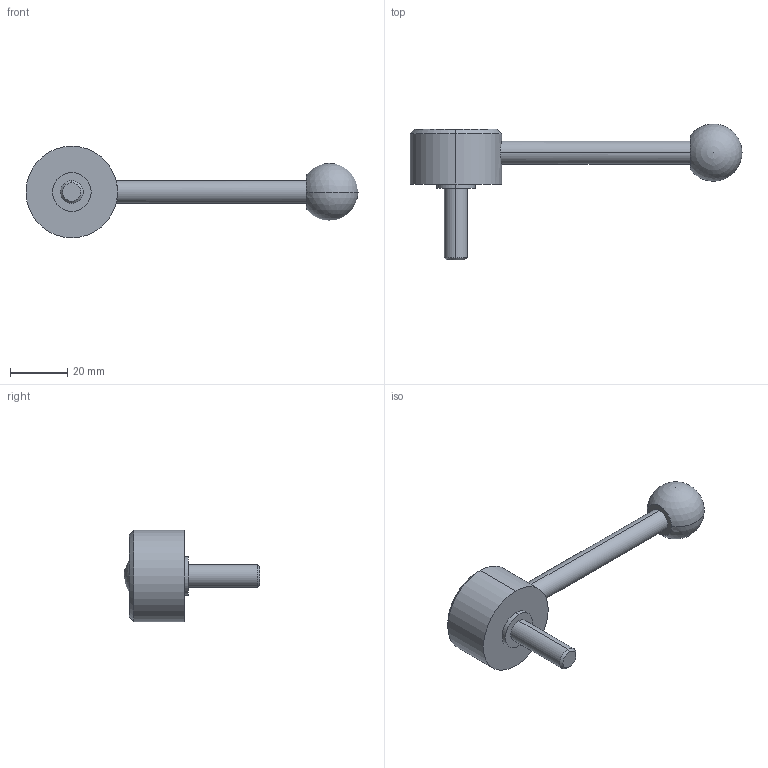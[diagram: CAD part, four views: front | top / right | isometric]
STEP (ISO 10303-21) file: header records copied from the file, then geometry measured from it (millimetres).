
FILE_DESCRIPTION (( 'STEP AP214' ), '1' );
FILE_NAME ('125.5-32-M8-25-D.step', '2020-02-18T11:25:47', ( '' ), ( '' ), 'SwSTEP 2.0', 'SolidWorks 2019', '' );
FILE_SCHEMA (( 'AUTOMOTIVE_DESIGN' ));
Length unit declared in the file: millimetre
Products named in the file (1): 125.5-32-M8-25-D
Bounding box: 116 x 47.47 x 32 mm (x, y, z)
Volume: 24106.8 mm3; surface area: 6925.7 mm2
Topology: 1 solids, 1 shells, 22 faces, 47 edges, 30 vertices
Faces by surface type: cylinder 10, plane 6, cone 4, sphere 2
Entity records: 730 total; most frequent: CARTESIAN_POINT 158, DIRECTION 112, ORIENTED_EDGE 84, AXIS2_PLACEMENT_3D 49, EDGE_CURVE 42, VERTEX_POINT 27, EDGE_LOOP 27, CIRCLE 26
